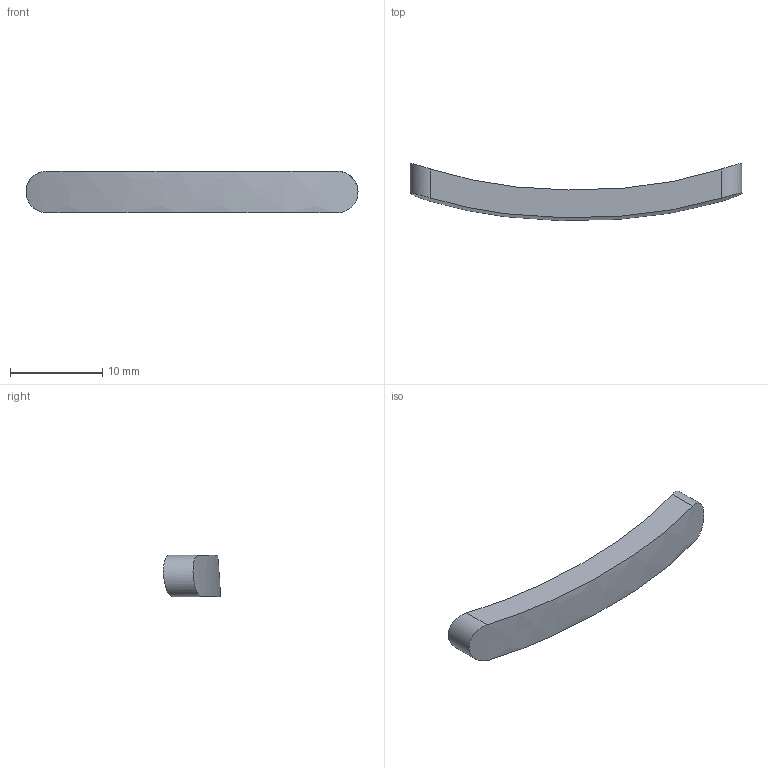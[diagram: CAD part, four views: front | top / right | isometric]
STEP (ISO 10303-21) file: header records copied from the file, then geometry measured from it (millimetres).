
FILE_DESCRIPTION(('Open CASCADE Model'),'2;1');
FILE_NAME('Open CASCADE Shape Model','2026-11-11T21:44:34',('Author'),( 'Open CASCADE'),'Open CASCADE STEP processor 8.0','build123d', 'Unknown');
FILE_SCHEMA(('AUTOMOTIVE_DESIGN { 1 0 10303 214 1 1 1 1 }'));
Length unit declared in the file: millimetre
Products named in the file (1): SOLID
Bounding box: 36 x 6.2 x 4.5 mm (x, y, z)
Volume: 482.5 mm3; surface area: 558.8 mm2
Topology: 1 solids, 1 shells, 6 faces, 12 edges, 8 vertices
Faces by surface type: plane 2, bspline 2, cylinder 2
Entity records: 27247 total; most frequent: CARTESIAN_POINT 27036, B_SPLINE_CURVE_WITH_KNOTS 26, ORIENTED_EDGE 24, PCURVE 24, DEFINITIONAL_REPRESENTATION 24, DIRECTION 20, EDGE_CURVE 12, SURFACE_CURVE 12
